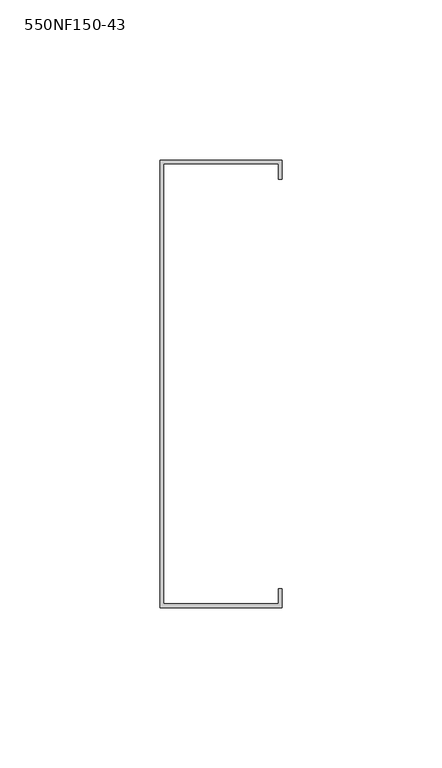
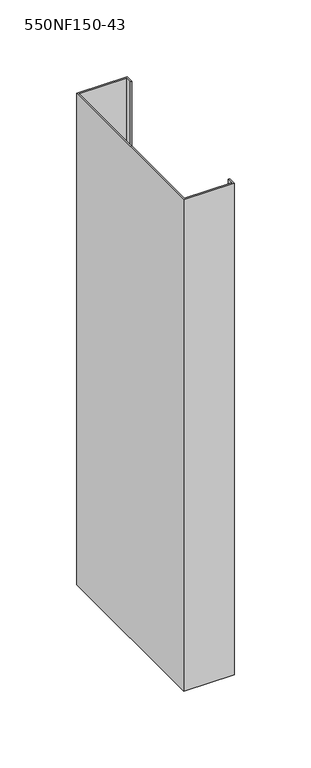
"""IFC4 building model written with IfcOpenShell, lengths in millimetres: column geometry, BIMSF-SSMA-S-Column : 550NF150-43."""

from ifc_helpers import new_model, si_unit, frame, origin, place, context, project, spatial, polyline, outline, extrude, source, transform, mapped, element, save


def column_550nf150_43_3b79bf27(model_context):
    return source(origin(), model_context, "Body", "SweptSolid", [
        extrude(outline(polyline([(-11.9977877, -80.5871249), (-11.9977877, 59.1128751), (26.1022123, 59.1128751), (26.1022123, 53.1879908), (24.952528, 53.1879908), (24.952528, 57.9631908), (-10.8481035, 57.9631908), (-10.8481035, -79.4374407), (24.952528, -79.4374407), (24.952528, -74.6622407), (26.1022123, -74.6622407), (26.1022123, -80.5871249), (-11.9977877, -80.5871249)])), frame((0.0, 0.0, 5525.3929688), z_axis=(0.0, 0.0, 1.0), x_axis=(1.0, 0.0, 0.0)), (0.0, 0.0, 1.0), 391.3812991),
    ])


if __name__ == "__main__":
    model = new_model("IFC4")
    model_context = context("Model", 3, world=origin())
    ifc_project = project(units=[si_unit("LENGTHUNIT", "METRE", prefix="MILLI")], contexts=[model_context])
    site = spatial("IfcSite", under=ifc_project)
    building = spatial("IfcBuilding", under=site)
    placement = place(None, origin())
    column_550nf150_43_shape = column_550nf150_43_3b79bf27(model_context)
    element("IfcColumn", 1, ObjectType="BIMSF-SSMA-S-Column : 550NF150-43", at=placement, inside=building, context=model_context, shape_type="MappedRepresentation", body=[
        mapped(column_550nf150_43_shape, transform((0.0, 0.0, 0.0), x_axis=(1.0, 0.0, 0.0), y_axis=(0.0, 1.0, 0.0), z_axis=(0.0, 0.0, 1.0))),
    ])
    save(model, "model.ifc")
